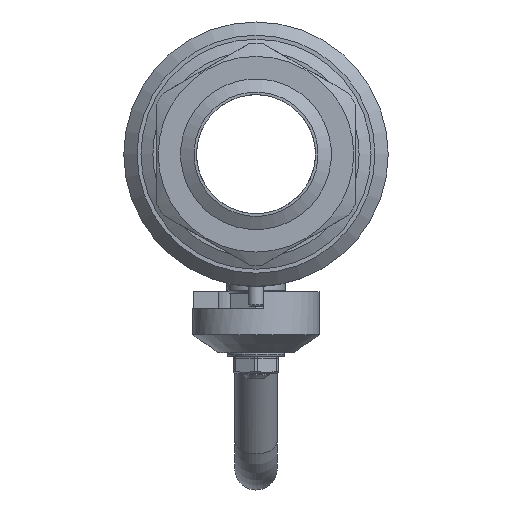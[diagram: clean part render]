
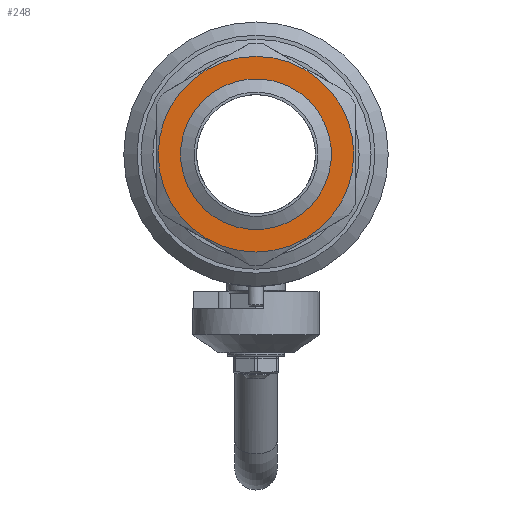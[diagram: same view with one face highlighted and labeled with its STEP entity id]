
A CAD part, left-side view. The second image highlights one B-rep face of the part: STEP entity #248.
In plain terms, the highlighted planar face has unit normal (-1, 0, 0).
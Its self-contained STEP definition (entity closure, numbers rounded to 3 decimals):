
#248=ADVANCED_FACE('',(#2059,#2061),#2063,.T.);
#2059=FACE_BOUND('',#2060,.T.);
#2060=EDGE_LOOP('',(#3308));
#2061=FACE_OUTER_BOUND('',#2062,.T.);
#2062=EDGE_LOOP('',(#3309));
#2063=PLANE('',#2064);
#2064=AXIS2_PLACEMENT_3D('',#2065,#2066,#2067);
#2065=CARTESIAN_POINT('',(-109.,0.,0.));
#2066=DIRECTION('',(-1.,0.,0.));
#2067=DIRECTION('',(0.,0.866,0.5));
#3308=ORIENTED_EDGE('',*,*,#4510,.F.);
#3309=ORIENTED_EDGE('',*,*,#4501,.F.);
#4501=EDGE_CURVE('',#5161,#5161,#5163,.T.);
#4510=EDGE_CURVE('',#5177,#5177,#5178,.T.);
#5161=VERTEX_POINT('',#8719);
#5163=CIRCLE('',#8723,37.);
#5177=VERTEX_POINT('',#8762);
#5178=CIRCLE('',#8763,28.5);
#8719=CARTESIAN_POINT('',(-109.,32.043,18.5));
#8723=AXIS2_PLACEMENT_3D('',#8724,#8725,#8726);
#8724=CARTESIAN_POINT('',(-109.,0.,0.));
#8725=DIRECTION('',(1.,0.,0.));
#8726=DIRECTION('',(0.,0.866,0.5));
#8762=CARTESIAN_POINT('',(-109.,-28.401,-2.379));
#8763=AXIS2_PLACEMENT_3D('',#8764,#8765,#8766);
#8764=CARTESIAN_POINT('',(-109.,0.,0.));
#8765=DIRECTION('',(-1.,0.,0.));
#8766=DIRECTION('',(0.,-0.997,-0.083));
